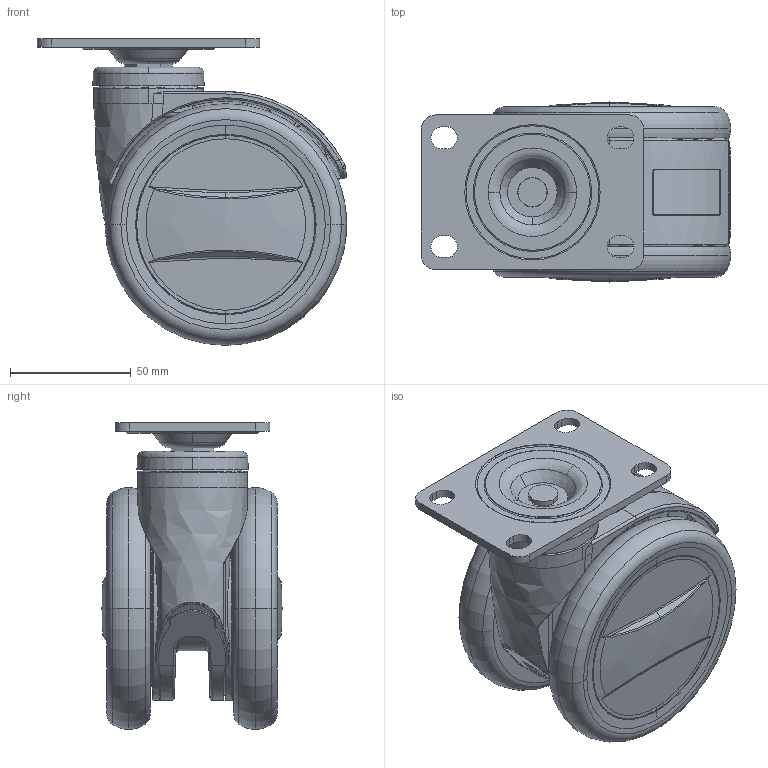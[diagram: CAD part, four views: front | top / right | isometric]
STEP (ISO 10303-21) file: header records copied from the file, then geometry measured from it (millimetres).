
FILE_DESCRIPTION(/* description */ (''),/* implementation_level */ '2;1');
FILE_NAME(/* name */ '80T03_4_F.stp',/* time_stamp */ '2022-10-17T15:54:34+08:00',/* author */ (''),/* organization */ (''),/* preprocessor_version */ 'ST-DEVELOPER v14',/* originating_system */ 'SIEMENS PLM Software NX 8.0',/* authorisation */ '');
FILE_SCHEMA (('AUTOMOTIVE_DESIGN { 1 0 10303 214 3 1 1 1 }'));
Products named in the file (1): 80T03_4_F
Bounding box: 128 x 74.5 x 126.9 mm (x, y, z)
Volume: 341088.9 mm3; surface area: 171276.5 mm2
Topology: 1 solids, 2 shells, 3263 faces, 9505 edges, 6312 vertices
Faces by surface type: plane 1353, cylinder 1144, cone 346, bspline 236, torus 166, sphere 18
Entity records: 130750 total; most frequent: CARTESIAN_POINT 46000, ORIENTED_EDGE 19342, DIRECTION 16530, EDGE_CURVE 9671, VERTEX_POINT 6484, AXIS2_PLACEMENT_3D 6266, LINE 3998, VECTOR 3998
